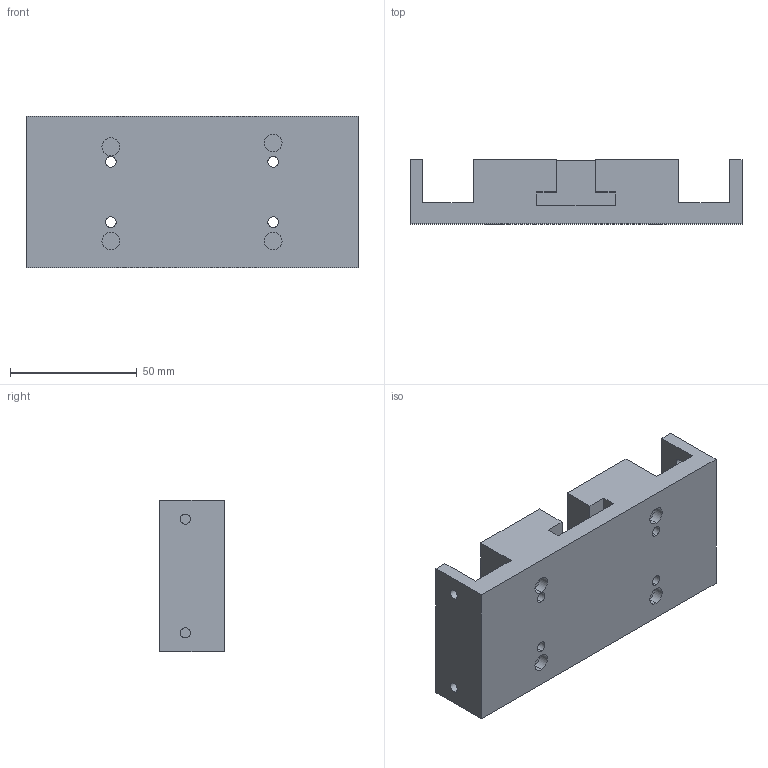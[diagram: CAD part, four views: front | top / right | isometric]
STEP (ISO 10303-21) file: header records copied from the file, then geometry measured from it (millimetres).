
FILE_DESCRIPTION (( 'STEP AP203' ), '1' );
FILE_NAME ('Separator_plateR2.step', '2026-06-05T03:32:55', ( '' ), ( '' ), 'SwSTEP 2.0', 'SolidWorks 2024', '' );
FILE_SCHEMA (( 'CONFIG_CONTROL_DESIGN' ));
Length unit declared in the file: millimetre
Products named in the file (1): Separator_plateR2
Bounding box: 131.2 x 25.3 x 60 mm (x, y, z)
Volume: 137496.7 mm3; surface area: 33345.1 mm2
Topology: 1 solids, 1 shells, 62 faces, 162 edges, 108 vertices
Faces by surface type: plane 32, cylinder 30
Entity records: 2035 total; most frequent: DIRECTION 348, CARTESIAN_POINT 333, ORIENTED_EDGE 324, EDGE_CURVE 162, AXIS2_PLACEMENT_3D 123, VERTEX_POINT 108, LINE 102, VECTOR 102
